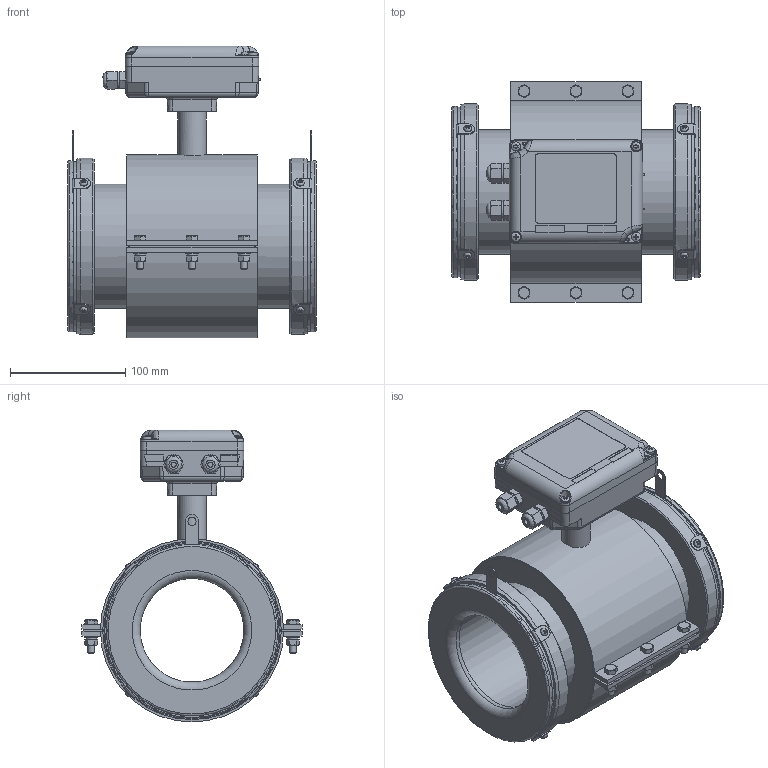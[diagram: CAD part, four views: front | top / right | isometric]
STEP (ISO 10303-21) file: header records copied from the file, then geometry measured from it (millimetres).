
FILE_DESCRIPTION(('STEP AP242'), '1');
FILE_NAME('栖闉罻', '', ('UNSPECIFIED'), ('UNSPECIFIED'), 'ASCON STEP Converter 1.6', 'ASCON Math Kernel', '');
FILE_SCHEMA(('AP242_MANAGED_MODEL_BASED_3D_ENGINEERING_MIM_LF { 1 0 10303 442 1 1 4 }'));
Length unit declared in the file: millimetre
Bounding box: 216 x 191 x 253.31 mm (x, y, z)
Volume: 1418983.7 mm3; surface area: 771001.5 mm2
Topology: 83 solids, 83 shells, 1799 faces, 4131 edges, 2523 vertices
Faces by surface type: plane 865, cylinder 472, bspline 219, cone 179, torus 48, sphere 16
Full cylindrical faces by diameter (mm): 2.3 x9, 3 x2, 3.422 x4, 3.6 x8, 4 x14, 4.5 x4, 4.917 x6, 5 x8, 5.5 x8, 6 x8, 6.4 x6, 7 x39, 8 x6, 11 x6, 12 x6, 12.2 x2, 12.5 x2, 15 x2, 16.5 x2, 17 x1, 18 x1, 19 x1, 21 x1, 22 x1, 25 x1, 30 x1, 90 x1, 98 x2, 100 x2, 105 x4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
Entity records: 122124 total; most frequent: CARTESIAN_POINT 70864, ORIENTED_EDGE 7266, DIRECTION 6575, EDGE_CURVE 3633, VERTEX_POINT 2513, EDGE_LOOP 2486, AXIS2_PLACEMENT_3D 2461, COLOUR_RGB 1882
